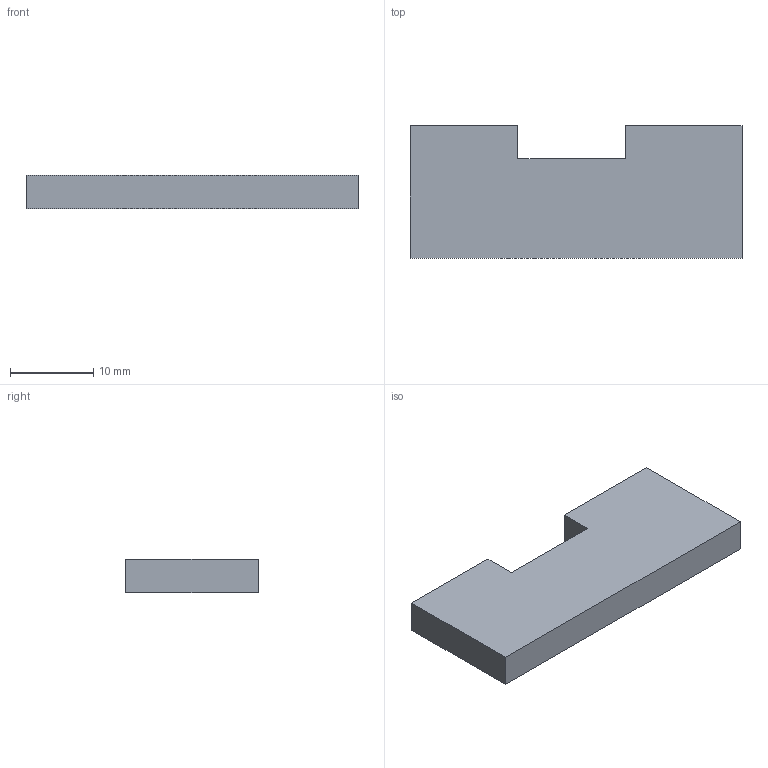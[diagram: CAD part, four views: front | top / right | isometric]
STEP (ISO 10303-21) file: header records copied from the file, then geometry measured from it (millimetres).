
FILE_DESCRIPTION(('STEP AP214'),'1');
FILE_NAME('tmp0.step','2025-04-19T20:58:04',(' '),(' '),'Spatial InterOp 3D',' ',' ');
FILE_SCHEMA(('AUTOMOTIVE_DESIGN { 1 0 10303 214 1 1 1 1 }'));
Length unit declared in the file: millimetre
Products named in the file (1): 1
Bounding box: 40 x 16 x 4 mm (x, y, z)
Volume: 2352 mm3; surface area: 1656 mm2
Topology: 1 solids, 1 shells, 10 faces, 24 edges, 16 vertices
Faces by surface type: plane 10
Entity records: 313 total; most frequent: CARTESIAN_POINT 51, ORIENTED_EDGE 48, DIRECTION 46, EDGE_CURVE 24, LINE 24, VECTOR 24, VERTEX_POINT 16, AXIS2_PLACEMENT_3D 11
